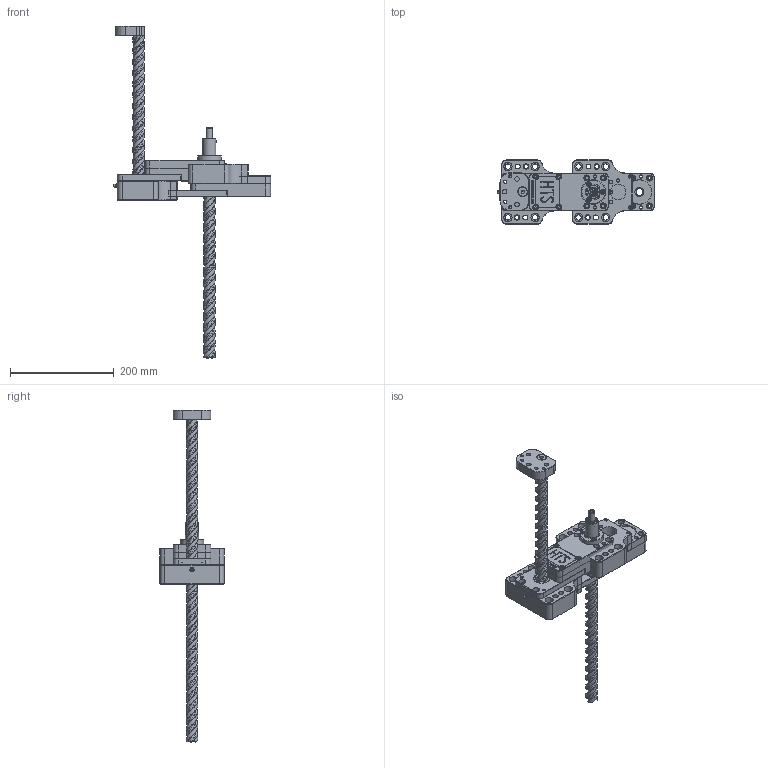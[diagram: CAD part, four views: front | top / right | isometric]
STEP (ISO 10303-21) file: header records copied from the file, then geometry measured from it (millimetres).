
FILE_DESCRIPTION( ( 'Unknown' ), '1' );
FILE_NAME( 'J:/1 Customer Files/HTS/HTS3000 SERIES/simplified_reps/3100-000/3000-000-10instrk.stp', 'Unknown', ( 'Unknown' ), ( 'Unknown' ), 'PSStep 14.0', 'Unknown', ' ' );
FILE_SCHEMA( ( 'AUTOMOTIVE_DESIGN { 1 0 10303 214 1 1 1 1 }' ) );
Length unit declared in the file: millimetre
Products named in the file (21): Assem1; 3008-000_0; 3017-000_0; 3006A-000; 3007A-000; 3016-000; 3025-000_0; 3034-000; 3018-000; 3007B-000; 3021-000; 3035-000; 3012-000_0; 3019-000; 3028-000; 3036-000; 3006B-000; 3022-440_0; 3020-040; 3023-194; 3011-010
Bounding box: 303.45 x 123.83 x 641.35 mm (x, y, z)
Volume: 2073783.1 mm3; surface area: 501915.1 mm2
Topology: 49 solids, 49 shells, 1984 faces, 5031 edges, 3263 vertices
Faces by surface type: plane 800, cylinder 579, cone 281, bspline 256, torus 60, sphere 8
Full cylindrical faces by diameter (mm): 1.587 x6, 2.381 x8, 2.769 x2, 3.307 x8, 3.454 x2, 3.493 x5, 3.551 x12, 3.797 x8, 4.166 x14, 4.216 x8, 4.709 x5, 4.915 x6, 4.928 x2, 5.156 x8, 5.41 x4, 5.766 x5, 6.35 x71, 6.528 x16, 7.144 x8, 7.805 x4, 7.938 x8, 8.712 x16, 8.731 x6, 8.738 x4, 8.763 x2, 9.058 x2, 9.525 x9, 10.16 x8, 10.319 x12, 11.113 x8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
Entity records: 79913 total; most frequent: CARTESIAN_POINT 52305, ORIENTED_EDGE 3942, DIRECTION 3864, EDGE_CURVE 1971, AXIS2_PLACEMENT_3D 1487, VERTEX_POINT 1413, EDGE_LOOP 1381, FACE_OUTER_BOUND 1094
